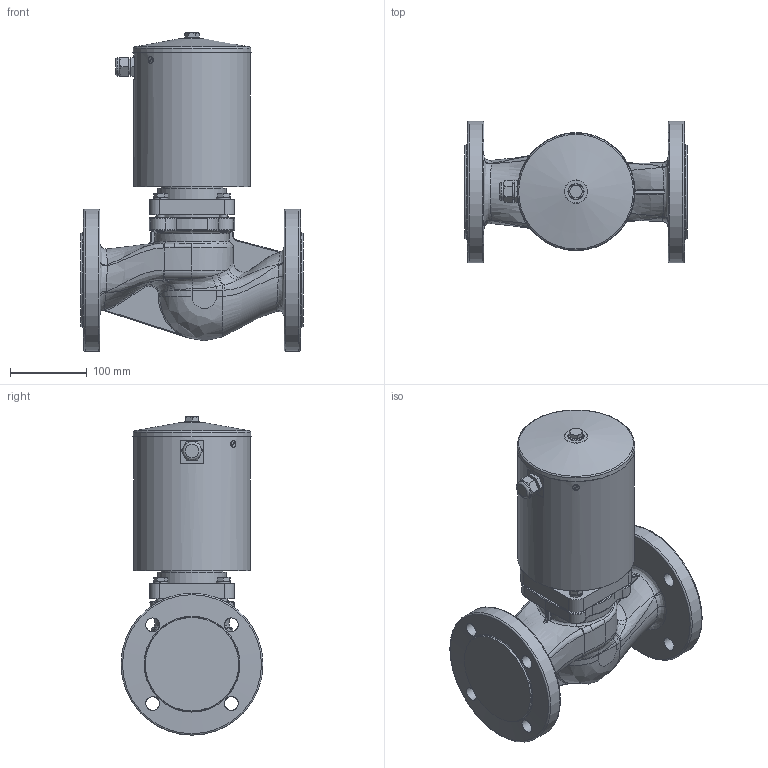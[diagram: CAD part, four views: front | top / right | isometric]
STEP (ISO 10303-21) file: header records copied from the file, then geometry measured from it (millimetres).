
FILE_DESCRIPTION((''),'2;1');
FILE_NAME('D:\CAD-Download Local\DN 65\02-EVA 25N-4.stp','2011-04-08T10:17:00',('lh'),(''),'Autodesk Inventor 2008','Autodesk Inventor 2008','');
FILE_SCHEMA(('AUTOMOTIVE_DESIGN { 1 0 10303 214 1 1 1 1 }'));
Length unit declared in the file: millimetre
Products named in the file (1): Bauteil12
Bounding box: 290 x 185 x 414.9 mm (x, y, z)
Volume: 6884239.9 mm3; surface area: 391567.1 mm2
Topology: 1 solids, 1 shells, 432 faces, 1015 edges, 608 vertices
Faces by surface type: bspline 164, plane 122, cylinder 81, cone 44, torus 21
Full cylindrical faces by diameter (mm): 10 x8, 11.5 x4, 14.63 x5, 18 x4, 20 x1, 23.713 x1, 82 x1, 90 x1, 90.5 x1, 94.8 x1, 152.4 x1, 185 x1
Entity records: 28638 total; most frequent: CARTESIAN_POINT 19708, ORIENTED_EDGE 1842, DIRECTION 1462, EDGE_CURVE 921, AXIS2_PLACEMENT_3D 622, VERTEX_POINT 578, EDGE_LOOP 551, FACE_OUTER_BOUND 432
